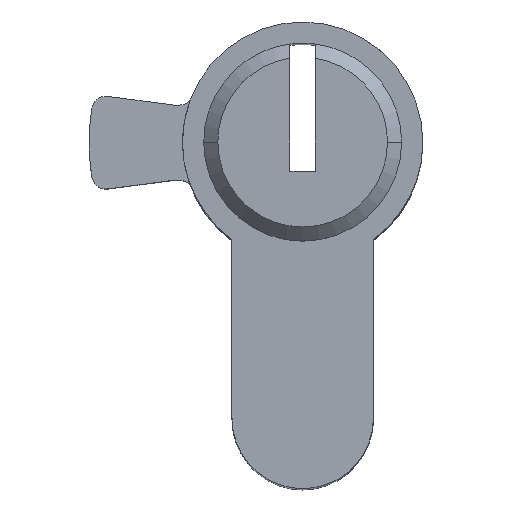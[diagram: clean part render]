
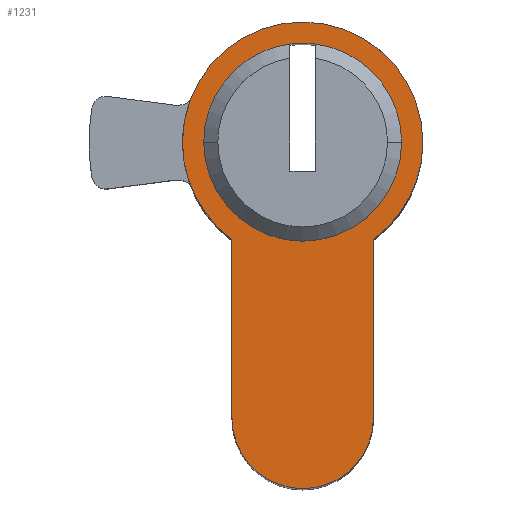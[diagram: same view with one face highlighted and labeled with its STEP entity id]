
A CAD part, top view. The second image highlights one B-rep face of the part: STEP entity #1231.
In plain terms, the highlighted planar face has unit normal (0, 0, 1).
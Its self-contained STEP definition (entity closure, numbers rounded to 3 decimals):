
#34 = DIRECTION ( 'NONE',  ( 0., -1., 0. ) ) ;
#50 = AXIS2_PLACEMENT_3D ( 'NONE', #509, #207, #493 ) ;
#79 = CIRCLE ( 'NONE', #106, 7. ) ;
#80 = FACE_OUTER_BOUND ( 'NONE', #1463, .T. ) ;
#106 = AXIS2_PLACEMENT_3D ( 'NONE', #116, #1651, #1634 ) ;
#113 = EDGE_CURVE ( 'NONE', #123, #1022, #268, .T. ) ;
#116 = CARTESIAN_POINT ( 'NONE',  ( 0., 0., 23. ) ) ;
#123 = VERTEX_POINT ( 'NONE', #1454 ) ;
#145 = EDGE_CURVE ( 'NONE', #180, #379, #663, .T. ) ;
#180 = VERTEX_POINT ( 'NONE', #1056 ) ;
#181 = CARTESIAN_POINT ( 'NONE',  ( -5., -19.5, 23. ) ) ;
#192 = CARTESIAN_POINT ( 'NONE',  ( 0., 0., 23. ) ) ;
#207 = DIRECTION ( 'NONE',  ( 0., 0., 1. ) ) ;
#218 = CIRCLE ( 'NONE', #1288, 8.5 ) ;
#234 = VERTEX_POINT ( 'NONE', #1523 ) ;
#242 = CARTESIAN_POINT ( 'NONE',  ( 0., 0., 23. ) ) ;
#268 = CIRCLE ( 'NONE', #1306, 7. ) ;
#313 = CARTESIAN_POINT ( 'NONE',  ( 0., 0., 23. ) ) ;
#332 = VECTOR ( 'NONE', #34, 1000. ) ;
#354 = CIRCLE ( 'NONE', #1661, 7. ) ;
#364 = DIRECTION ( 'NONE',  ( 0., 0., 1. ) ) ;
#371 = VERTEX_POINT ( 'NONE', #181 ) ;
#379 = VERTEX_POINT ( 'NONE', #1400 ) ;
#393 = DIRECTION ( 'NONE',  ( 1., 0., 0. ) ) ;
#394 = VERTEX_POINT ( 'NONE', #1540 ) ;
#402 = ORIENTED_EDGE ( 'NONE', *, *, #145, .T. ) ;
#409 = EDGE_CURVE ( 'NONE', #482, #123, #354, .T. ) ;
#436 = ORIENTED_EDGE ( 'NONE', *, *, #1528, .T. ) ;
#440 = VECTOR ( 'NONE', #1354, 1000. ) ;
#451 = ORIENTED_EDGE ( 'NONE', *, *, #409, .F. ) ;
#473 = DIRECTION ( 'NONE',  ( 1., 0., 0. ) ) ;
#482 = VERTEX_POINT ( 'NONE', #1728 ) ;
#492 = DIRECTION ( 'NONE',  ( 0., 0., 1. ) ) ;
#493 = DIRECTION ( 'NONE',  ( 1., 0., 0. ) ) ;
#509 = CARTESIAN_POINT ( 'NONE',  ( 0., 0., 23. ) ) ;
#510 = DIRECTION ( 'NONE',  ( 1., 0., 0. ) ) ;
#548 = CARTESIAN_POINT ( 'NONE',  ( 0., 0., 23. ) ) ;
#619 = EDGE_CURVE ( 'NONE', #1022, #1502, #79, .T. ) ;
#646 = DIRECTION ( 'NONE',  ( 1., 0., 0. ) ) ;
#663 = CIRCLE ( 'NONE', #1546, 8.5 ) ;
#679 = CARTESIAN_POINT ( 'NONE',  ( 5., -19.5, 23. ) ) ;
#709 = CARTESIAN_POINT ( 'NONE',  ( -7., 0., 23. ) ) ;
#733 = DIRECTION ( 'NONE',  ( 0., 0., 1. ) ) ;
#737 = CARTESIAN_POINT ( 'NONE',  ( 0., -19.5, 23. ) ) ;
#761 = EDGE_CURVE ( 'NONE', #379, #371, #859, .T. ) ;
#830 = CARTESIAN_POINT ( 'NONE',  ( 5., -19.5, 23. ) ) ;
#838 = VERTEX_POINT ( 'NONE', #830 ) ;
#844 = EDGE_CURVE ( 'NONE', #838, #394, #1514, .T. ) ;
#859 = LINE ( 'NONE', #1140, #332 ) ;
#860 = DIRECTION ( 'NONE',  ( 0., 0., 1. ) ) ;
#969 = ORIENTED_EDGE ( 'NONE', *, *, #1349, .F. ) ;
#982 = ORIENTED_EDGE ( 'NONE', *, *, #761, .T. ) ;
#988 = AXIS2_PLACEMENT_3D ( 'NONE', #548, #1381, #393 ) ;
#1008 = DIRECTION ( 'NONE',  ( 0., 0., 1. ) ) ;
#1022 = VERTEX_POINT ( 'NONE', #709 ) ;
#1047 = ORIENTED_EDGE ( 'NONE', *, *, #619, .F. ) ;
#1056 = CARTESIAN_POINT ( 'NONE',  ( -8.5, 0., 23. ) ) ;
#1140 = CARTESIAN_POINT ( 'NONE',  ( -5., -6.874, 23. ) ) ;
#1173 = CARTESIAN_POINT ( 'NONE',  ( 0., 0., 23. ) ) ;
#1198 = ORIENTED_EDGE ( 'NONE', *, *, #113, .F. ) ;
#1210 = DIRECTION ( 'NONE',  ( 0., 0., 1. ) ) ;
#1231 = ADVANCED_FACE ( 'NONE', ( #1448, #80 ), #1318, .T. ) ;
#1255 = CIRCLE ( 'NONE', #1632, 5. ) ;
#1288 = AXIS2_PLACEMENT_3D ( 'NONE', #1748, #1210, #510 ) ;
#1306 = AXIS2_PLACEMENT_3D ( 'NONE', #242, #364, #1341 ) ;
#1318 = PLANE ( 'NONE',  #50 ) ;
#1322 = ORIENTED_EDGE ( 'NONE', *, *, #1608, .T. ) ;
#1341 = DIRECTION ( 'NONE',  ( 1., 0., 0. ) ) ;
#1349 = EDGE_CURVE ( 'NONE', #1502, #482, #1719, .T. ) ;
#1354 = DIRECTION ( 'NONE',  ( 0., 1., 0. ) ) ;
#1362 = ORIENTED_EDGE ( 'NONE', *, *, #844, .T. ) ;
#1379 = EDGE_LOOP ( 'NONE', ( #451, #969, #1047, #1198 ) ) ;
#1381 = DIRECTION ( 'NONE',  ( 0., 0., 1. ) ) ;
#1400 = CARTESIAN_POINT ( 'NONE',  ( -5., -6.874, 23. ) ) ;
#1401 = CIRCLE ( 'NONE', #1461, 8.5 ) ;
#1448 = FACE_BOUND ( 'NONE', #1379, .T. ) ;
#1454 = CARTESIAN_POINT ( 'NONE',  ( -0.9, 6.942, 23. ) ) ;
#1461 = AXIS2_PLACEMENT_3D ( 'NONE', #313, #860, #473 ) ;
#1463 = EDGE_LOOP ( 'NONE', ( #1322, #436, #402, #982, #1555, #1362 ) ) ;
#1502 = VERTEX_POINT ( 'NONE', #1715 ) ;
#1514 = LINE ( 'NONE', #679, #440 ) ;
#1523 = CARTESIAN_POINT ( 'NONE',  ( 8.5, 0., 23. ) ) ;
#1528 = EDGE_CURVE ( 'NONE', #234, #180, #1401, .T. ) ;
#1540 = CARTESIAN_POINT ( 'NONE',  ( 5., -6.874, 23. ) ) ;
#1546 = AXIS2_PLACEMENT_3D ( 'NONE', #1173, #492, #646 ) ;
#1553 = EDGE_CURVE ( 'NONE', #371, #838, #1255, .T. ) ;
#1555 = ORIENTED_EDGE ( 'NONE', *, *, #1553, .T. ) ;
#1575 = DIRECTION ( 'NONE',  ( 1., 0., 0. ) ) ;
#1608 = EDGE_CURVE ( 'NONE', #394, #234, #218, .T. ) ;
#1632 = AXIS2_PLACEMENT_3D ( 'NONE', #737, #1008, #1575 ) ;
#1634 = DIRECTION ( 'NONE',  ( 1., 0., 0. ) ) ;
#1651 = DIRECTION ( 'NONE',  ( 0., 0., 1. ) ) ;
#1661 = AXIS2_PLACEMENT_3D ( 'NONE', #192, #733, #1709 ) ;
#1709 = DIRECTION ( 'NONE',  ( 1., 0., 0. ) ) ;
#1715 = CARTESIAN_POINT ( 'NONE',  ( 7., 0., 23. ) ) ;
#1719 = CIRCLE ( 'NONE', #988, 7. ) ;
#1728 = CARTESIAN_POINT ( 'NONE',  ( 0.9, 6.942, 23. ) ) ;
#1748 = CARTESIAN_POINT ( 'NONE',  ( 0., 0., 23. ) ) ;
